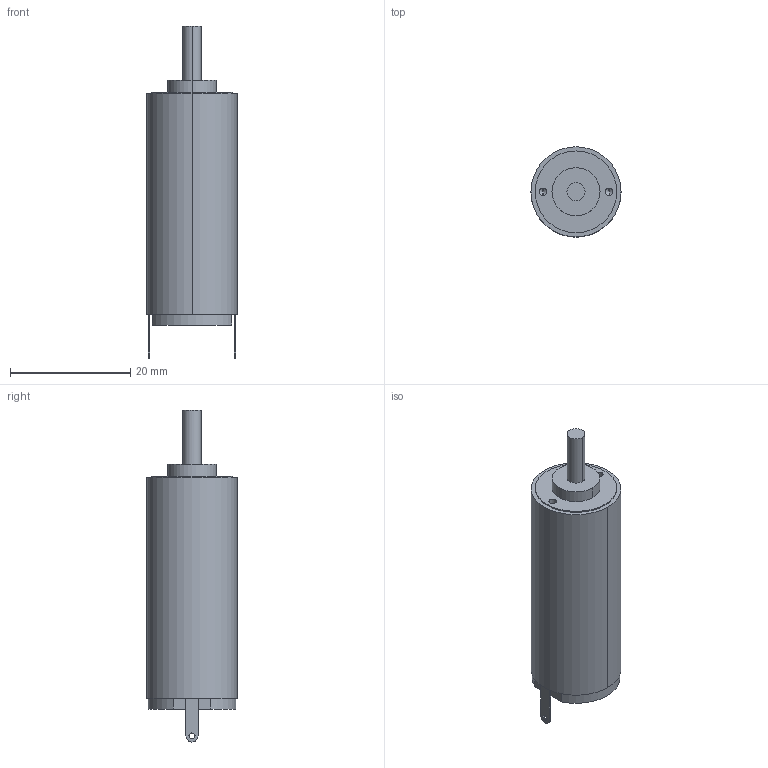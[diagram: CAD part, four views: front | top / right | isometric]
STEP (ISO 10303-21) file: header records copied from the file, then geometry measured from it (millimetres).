
FILE_DESCRIPTION (( 'STEP AP214' ), '1' );
FILE_NAME ('NC-1539.STEP', '2024-11-12T07:16:15', ( '' ), ( '' ), 'SwSTEP 2.0', 'SolidWorks 2024', '' );
FILE_SCHEMA (( 'AUTOMOTIVE_DESIGN' ));
Length unit declared in the file: millimetre
Products named in the file (1): NC-1539
Bounding box: 15 x 15 x 55.28 mm (x, y, z)
Volume: 6987.4 mm3; surface area: 2400.5 mm2
Topology: 1 solids, 1 shells, 42 faces, 98 edges, 62 vertices
Faces by surface type: cylinder 22, plane 16, cone 4
Entity records: 1217 total; most frequent: DIRECTION 224, CARTESIAN_POINT 199, ORIENTED_EDGE 188, EDGE_CURVE 94, AXIS2_PLACEMENT_3D 87, VERTEX_POINT 62, EDGE_LOOP 54, VECTOR 50
